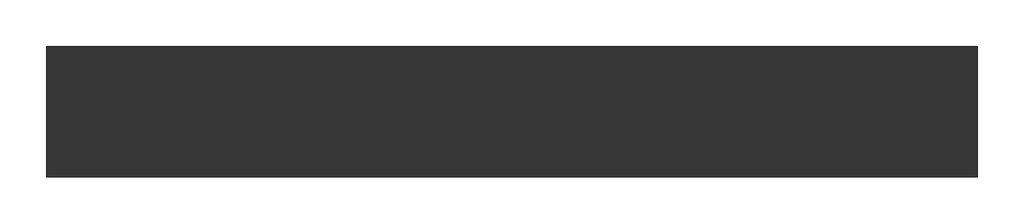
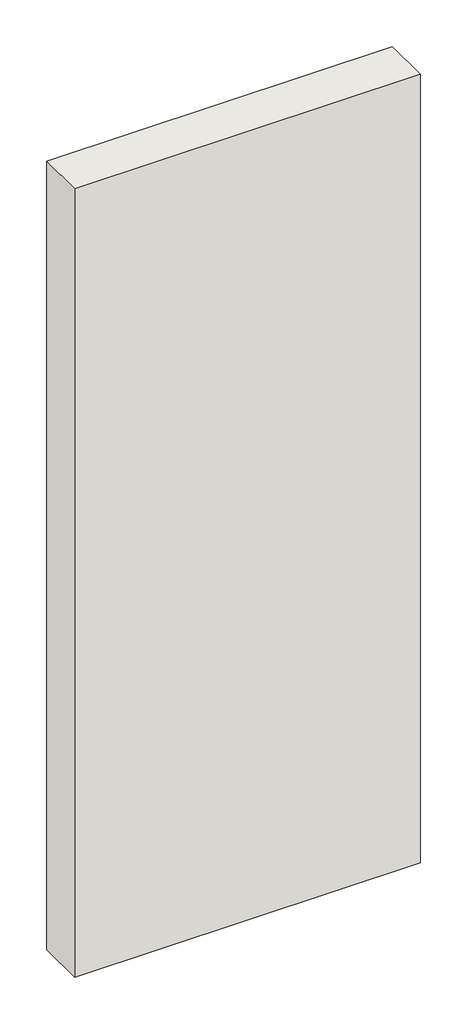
# One storey: 1 wall.
"""IFC4 building model written with IfcOpenShell, lengths in millimetres."""

from ifc_helpers import new_model, si_unit, origin, origin_with_axes, place, context, project, spatial, polyline, outline, extrude, element, save

model = new_model("IFC4")

# Units and contexts
model_context = context("Model", 3, world=origin())
ifc_project = project(units=[si_unit("LENGTHUNIT", "METRE", prefix="MILLI")], contexts=[model_context])

# Site, building, storey
site = spatial("IfcSite", under=ifc_project)
building = spatial("IfcBuilding", under=site)
storey = spatial("IfcBuildingStorey", under=building, Name="Уровень 1", Elevation=0.0)

# Wall
placement = place(None, origin())
element("IfcWall", 1, ObjectType="Перегородка-КНАУФ-С363-Применение внутри здания-175/100@600 ГВЛ 12,5", at=placement, inside=storey, context=model_context, shape_type="SweptSolid", body=[
    extrude(outline(polyline([(-9315.7236634, 13459.2035262), (-10560.2640717, 13459.2035262), (-10560.2640717, 13634.2035262), (-9315.7236634, 13634.2035262), (-9315.7236634, 13459.2035262)])), origin_with_axes(), (0.0, 0.0, 1.0), 3000.0),
])

save(model, "model.ifc")
